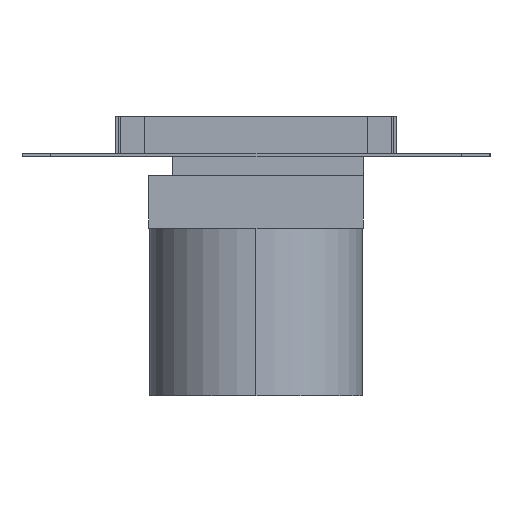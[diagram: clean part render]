
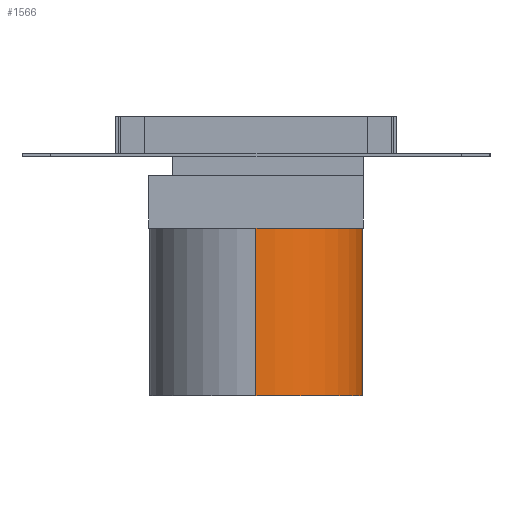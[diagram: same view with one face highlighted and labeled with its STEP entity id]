
A CAD part, left-side view. The second image highlights one B-rep face of the part: STEP entity #1566.
In plain terms, the highlighted cylindrical face has radius 57.35 mm (diameter 114.7 mm), a partial arc.
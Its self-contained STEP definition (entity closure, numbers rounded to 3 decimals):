
#17=CIRCLE('',#1699,57.35);
#18=CIRCLE('',#1700,57.35);
#21=CYLINDRICAL_SURFACE('',#1698,57.35);
#68=FACE_OUTER_BOUND('',#167,.T.);
#167=EDGE_LOOP('',(#1104,#1105,#1106,#1107));
#292=LINE('',#2289,#501);
#293=LINE('',#2292,#502);
#501=VECTOR('',#1863,304.8);
#502=VECTOR('',#1866,304.8);
#697=VERTEX_POINT('',#2285);
#698=VERTEX_POINT('',#2286);
#699=VERTEX_POINT('',#2288);
#700=VERTEX_POINT('',#2290);
#852=EDGE_CURVE('',#697,#698,#17,.T.);
#853=EDGE_CURVE('',#699,#697,#292,.T.);
#854=EDGE_CURVE('',#700,#699,#18,.T.);
#855=EDGE_CURVE('',#698,#700,#293,.T.);
#1104=ORIENTED_EDGE('',*,*,#852,.F.);
#1105=ORIENTED_EDGE('',*,*,#853,.F.);
#1106=ORIENTED_EDGE('',*,*,#854,.F.);
#1107=ORIENTED_EDGE('',*,*,#855,.F.);
#1566=ADVANCED_FACE('',(#68),#21,.T.);
#1698=AXIS2_PLACEMENT_3D('',#2284,#1859,#1860);
#1699=AXIS2_PLACEMENT_3D('',#2287,#1861,#1862);
#1700=AXIS2_PLACEMENT_3D('',#2291,#1864,#1865);
#1859=DIRECTION('center_axis',(0.,0.,1.));
#1860=DIRECTION('ref_axis',(-1.,0.,0.));
#1861=DIRECTION('center_axis',(0.,0.,1.));
#1862=DIRECTION('ref_axis',(-1.,0.,0.));
#1863=DIRECTION('',(0.,0.,1.));
#1864=DIRECTION('center_axis',(0.,0.,-1.));
#1865=DIRECTION('ref_axis',(-1.,0.,0.));
#1866=DIRECTION('',(0.,0.,-1.));
#2284=CARTESIAN_POINT('Origin',(0.,0.,
-150.));
#2285=CARTESIAN_POINT('',(-57.35,0.,-32.));
#2286=CARTESIAN_POINT('',(57.35,0.,-32.));
#2287=CARTESIAN_POINT('Origin',(0.,0.,
-32.));
#2288=CARTESIAN_POINT('',(-57.35,0.,-150.));
#2289=CARTESIAN_POINT('',(-57.35,0.,-150.));
#2290=CARTESIAN_POINT('',(57.35,0.,-150.));
#2291=CARTESIAN_POINT('Origin',(0.,0.,
-150.));
#2292=CARTESIAN_POINT('',(57.35,0.,-32.));
